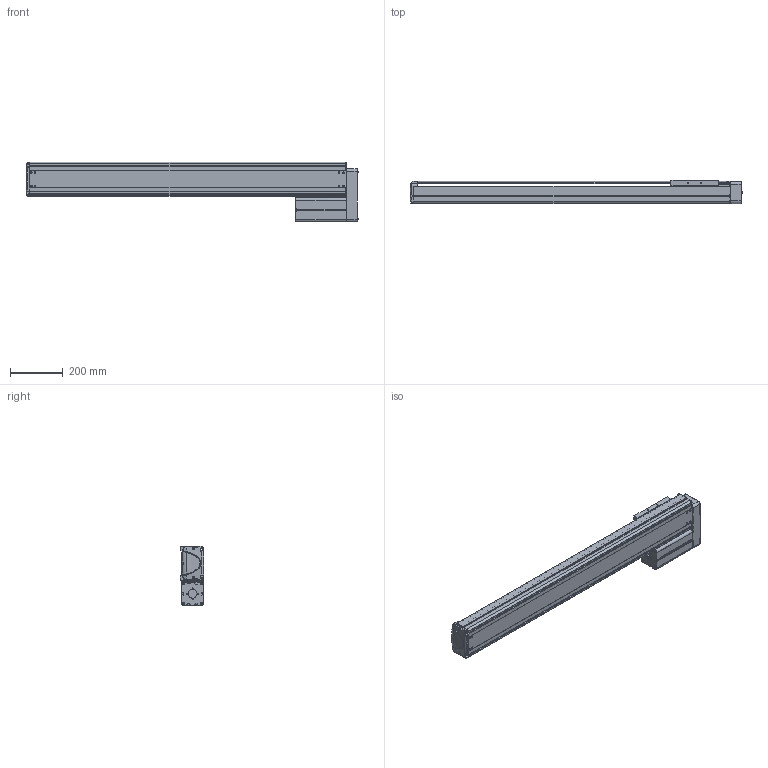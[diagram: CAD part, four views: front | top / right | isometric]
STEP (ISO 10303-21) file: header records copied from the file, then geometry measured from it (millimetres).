
FILE_DESCRIPTION((''),'2;1');
FILE_NAME('BE30E-UL-L_B-95_IGS_PRT','2017-06-17T',(' '),(''),'PRO/ENGINEER BY PARAMETRIC TECHNOLOGY CORPORATION, 2015030','PRO/ENGINEER BY PARAMETRIC TECHNOLOGY CORPORATION, 2015030','');
FILE_SCHEMA(('CONFIG_CONTROL_DESIGN'));
Length unit declared in the file: millimetre
Products named in the file (1): BE30E-UL-L_B-95_IGS_PRT
Bounding box: 1261.9 x 89.8 x 227 mm (x, y, z)
Volume: 4217390.4 mm3; surface area: 1794612.3 mm2
Topology: 2 solids, 133 shells, 2085 faces, 5638 edges, 3670 vertices
Faces by surface type: plane 1004, cylinder 891, cone 101, torus 37, bspline 28, sphere 24
Entity records: 67745 total; most frequent: CARTESIAN_POINT 14384, DIRECTION 11281, ORIENTED_EDGE 10701, EDGE_CURVE 5600, AXIS2_PLACEMENT_3D 3996, VERTEX_POINT 3670, VECTOR 3289, LINE 3289
